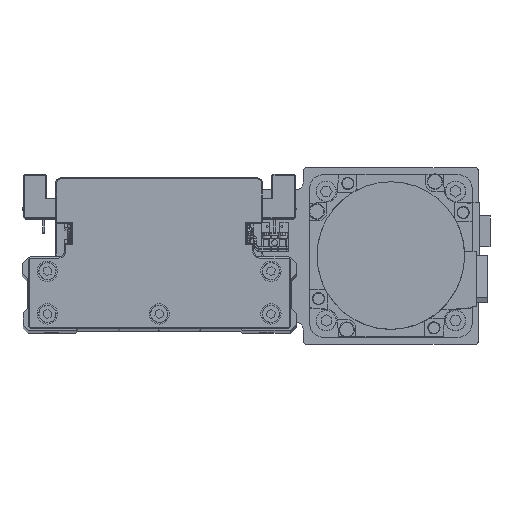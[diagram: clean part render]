
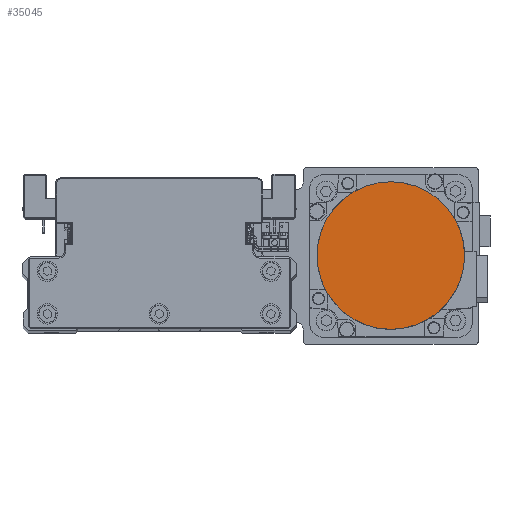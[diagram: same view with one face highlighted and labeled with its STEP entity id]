
A CAD part, top view. The second image highlights one B-rep face of the part: STEP entity #35045.
In plain terms, the highlighted planar face has unit normal (0, 0, 1) as drawn and (0, 0, -1) by its records, which use the part's own axes.
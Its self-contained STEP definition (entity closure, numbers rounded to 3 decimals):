
#214 = DIRECTION ( 'NONE',  ( 0., -1., 0. ) ) ;
#3557 = DIRECTION ( 'NONE',  ( 0., 1., 0. ) ) ;
#6882 = AXIS2_PLACEMENT_3D ( 'NONE', #18955, #31286, #3557 ) ;
#9448 = CARTESIAN_POINT ( 'NONE',  ( 0., -36.3, -122.2 ) ) ;
#10302 = AXIS2_PLACEMENT_3D ( 'NONE', #15594, #27927, #214 ) ;
#10548 = ORIENTED_EDGE ( 'NONE', *, *, #25040, .F. ) ;
#11662 = CARTESIAN_POINT ( 'NONE',  ( 0., 0., -122.2 ) ) ;
#13058 = EDGE_CURVE ( 'NONE', #17082, #26751, #27761, .T. ) ;
#15594 = CARTESIAN_POINT ( 'NONE',  ( 0., 0., -122.2 ) ) ;
#17082 = VERTEX_POINT ( 'NONE', #9448 ) ;
#18955 = CARTESIAN_POINT ( 'NONE',  ( 0., 0., -122.2 ) ) ;
#24020 = DIRECTION ( 'NONE',  ( 0., 0., 1. ) ) ;
#24340 = CIRCLE ( 'NONE', #6882, 36.3 ) ;
#25040 = EDGE_CURVE ( 'NONE', #26751, #17082, #24340, .T. ) ;
#25460 = AXIS2_PLACEMENT_3D ( 'NONE', #11662, #24020, #36341 ) ;
#26751 = VERTEX_POINT ( 'NONE', #40015 ) ;
#27044 = EDGE_LOOP ( 'NONE', ( #10548, #37571 ) ) ;
#27052 = FACE_OUTER_BOUND ( 'NONE', #27044, .T. ) ;
#27761 = CIRCLE ( 'NONE', #10302, 36.3 ) ;
#27927 = DIRECTION ( 'NONE',  ( 0., 0., 1. ) ) ;
#31286 = DIRECTION ( 'NONE',  ( 0., 0., 1. ) ) ;
#35045 = ADVANCED_FACE ( 'NONE', ( #27052 ), #39393, .F. ) ;
#36341 = DIRECTION ( 'NONE',  ( 1., 0., 0. ) ) ;
#37571 = ORIENTED_EDGE ( 'NONE', *, *, #13058, .F. ) ;
#39393 = PLANE ( 'NONE',  #25460 ) ;
#40015 = CARTESIAN_POINT ( 'NONE',  ( 0., 36.3, -122.2 ) ) ;
